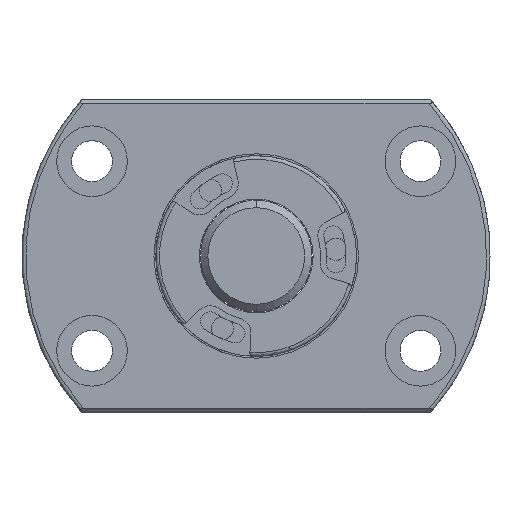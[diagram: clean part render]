
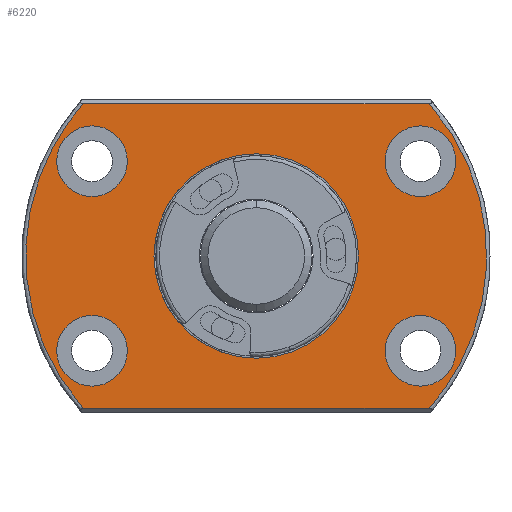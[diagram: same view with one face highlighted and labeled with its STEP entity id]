
A CAD part, left-side view. The second image highlights one B-rep face of the part: STEP entity #6220.
In plain terms, the highlighted planar face has unit normal (-1, 0, 0).
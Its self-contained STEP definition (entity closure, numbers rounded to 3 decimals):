
#52 = ORIENTED_EDGE ( 'NONE', *, *, #3601, .T. ) ;
#76 = CARTESIAN_POINT ( 'NONE',  ( 0., 0., -20.5 ) ) ;
#113 = CARTESIAN_POINT ( 'NONE',  ( 0., 22.084, -12.75 ) ) ;
#173 = AXIS2_PLACEMENT_3D ( 'NONE', #5272, #7792, #6441 ) ;
#193 = EDGE_CURVE ( 'NONE', #1354, #4407, #1713, .T. ) ;
#246 = ORIENTED_EDGE ( 'NONE', *, *, #4197, .F. ) ;
#256 = VERTEX_POINT ( 'NONE', #7330 ) ;
#363 = ORIENTED_EDGE ( 'NONE', *, *, #5457, .T. ) ;
#377 = VERTEX_POINT ( 'NONE', #1036 ) ;
#416 = DIRECTION ( 'NONE',  ( 0., 0., 1. ) ) ;
#517 = EDGE_LOOP ( 'NONE', ( #4349, #52 ) ) ;
#629 = CARTESIAN_POINT ( 'NONE',  ( 0., -22.084, -12.75 ) ) ;
#648 = DIRECTION ( 'NONE',  ( 0., 0., 1. ) ) ;
#741 = CARTESIAN_POINT ( 'NONE',  ( 0., -34.098, 8.199 ) ) ;
#760 = VERTEX_POINT ( 'NONE', #1612 ) ;
#767 = CARTESIAN_POINT ( 'NONE',  ( 0., -22.084, 17.5 ) ) ;
#867 = DIRECTION ( 'NONE',  ( 1., 0., 0. ) ) ;
#892 = CARTESIAN_POINT ( 'NONE',  ( 0., 23.254, 20.5 ) ) ;
#918 = FACE_BOUND ( 'NONE', #2124, .T. ) ;
#965 = ORIENTED_EDGE ( 'NONE', *, *, #2668, .F. ) ;
#976 = CARTESIAN_POINT ( 'NONE',  ( 0., 0., 0. ) ) ;
#1036 = CARTESIAN_POINT ( 'NONE',  ( 0., 22.084, 17.5 ) ) ;
#1053 = LINE ( 'NONE', #3655, #3575 ) ;
#1183 = CARTESIAN_POINT ( 'NONE',  ( 0., 23.254, 20.5 ) ) ;
#1354 = VERTEX_POINT ( 'NONE', #5718 ) ;
#1384 = AXIS2_PLACEMENT_3D ( 'NONE', #7695, #2570, #2597 ) ;
#1450 = CIRCLE ( 'NONE', #5500, 4.75 ) ;
#1545 = CIRCLE ( 'NONE', #2299, 13.75 ) ;
#1576 = LINE ( 'NONE', #76, #4685 ) ;
#1612 = CARTESIAN_POINT ( 'NONE',  ( 0., 0., 13.75 ) ) ;
#1659 = EDGE_CURVE ( 'NONE', #5902, #5411, #3844, .T. ) ;
#1713 =( BOUNDED_CURVE ( )  B_SPLINE_CURVE ( 3, ( #4859, #3491, #7298, #892 ),
 .UNSPECIFIED., .F., .T. ) 
 B_SPLINE_CURVE_WITH_KNOTS ( ( 4, 4 ),
 ( 0., 1. ),
 .UNSPECIFIED. ) 
 CURVE ( )  GEOMETRIC_REPRESENTATION_ITEM ( )  RATIONAL_B_SPLINE_CURVE ( ( 1., 0.833, 0.833, 1. ) ) 
 REPRESENTATION_ITEM ( '' )  );
#2086 = AXIS2_PLACEMENT_3D ( 'NONE', #2562, #5697, #3137 ) ;
#2124 = EDGE_LOOP ( 'NONE', ( #6494, #3625 ) ) ;
#2141 = CIRCLE ( 'NONE', #1384, 4.75 ) ;
#2177 = EDGE_CURVE ( 'NONE', #256, #760, #6950, .T. ) ;
#2299 = AXIS2_PLACEMENT_3D ( 'NONE', #976, #6710, #416 ) ;
#2510 = AXIS2_PLACEMENT_3D ( 'NONE', #5967, #4263, #5991 ) ;
#2562 = CARTESIAN_POINT ( 'NONE',  ( 0., -22.084, -12.75 ) ) ;
#2570 = DIRECTION ( 'NONE',  ( 1., 0., 0. ) ) ;
#2578 = VERTEX_POINT ( 'NONE', #3935 ) ;
#2597 = DIRECTION ( 'NONE',  ( 0., 0., 1. ) ) ;
#2598 = DIRECTION ( 'NONE',  ( 0., 1., 0. ) ) ;
#2668 = EDGE_CURVE ( 'NONE', #2578, #7729, #4678, .T. ) ;
#2677 = VERTEX_POINT ( 'NONE', #5995 ) ;
#2700 = CARTESIAN_POINT ( 'NONE',  ( 0., -23.254, 20.5 ) ) ;
#2704 = EDGE_LOOP ( 'NONE', ( #246, #4950, #6893, #965 ) ) ;
#2846 = FACE_BOUND ( 'NONE', #7482, .T. ) ;
#2885 = CIRCLE ( 'NONE', #3750, 4.75 ) ;
#2962 = VERTEX_POINT ( 'NONE', #6554 ) ;
#3054 = CIRCLE ( 'NONE', #173, 4.75 ) ;
#3068 = PLANE ( 'NONE',  #7003 ) ;
#3137 = DIRECTION ( 'NONE',  ( 0., 0., 1. ) ) ;
#3231 = EDGE_LOOP ( 'NONE', ( #3712, #7864 ) ) ;
#3305 = CARTESIAN_POINT ( 'NONE',  ( 0., 0., 0. ) ) ;
#3370 = CARTESIAN_POINT ( 'NONE',  ( 0., -23.254, -20.5 ) ) ;
#3432 = DIRECTION ( 'NONE',  ( 0., 0., 1. ) ) ;
#3491 = CARTESIAN_POINT ( 'NONE',  ( 0., 34.098, -8.199 ) ) ;
#3543 = FACE_BOUND ( 'NONE', #517, .T. ) ;
#3575 = VECTOR ( 'NONE', #8132, 1000. ) ;
#3601 = EDGE_CURVE ( 'NONE', #2677, #377, #4785, .T. ) ;
#3625 = ORIENTED_EDGE ( 'NONE', *, *, #5441, .T. ) ;
#3655 = CARTESIAN_POINT ( 'NONE',  ( 0., 0., 20.5 ) ) ;
#3660 = EDGE_CURVE ( 'NONE', #4810, #7393, #2885, .T. ) ;
#3712 = ORIENTED_EDGE ( 'NONE', *, *, #4259, .T. ) ;
#3750 = AXIS2_PLACEMENT_3D ( 'NONE', #113, #3950, #5208 ) ;
#3787 = DIRECTION ( 'NONE',  ( 1., 0., 0. ) ) ;
#3844 = CIRCLE ( 'NONE', #5297, 4.75 ) ;
#3883 = EDGE_CURVE ( 'NONE', #7729, #1354, #1576, .T. ) ;
#3935 = CARTESIAN_POINT ( 'NONE',  ( 0., -23.254, 20.5 ) ) ;
#3950 = DIRECTION ( 'NONE',  ( 1., 0., 0. ) ) ;
#3984 = CIRCLE ( 'NONE', #2086, 4.75 ) ;
#4058 = CIRCLE ( 'NONE', #2510, 4.75 ) ;
#4197 = EDGE_CURVE ( 'NONE', #4407, #2578, #1053, .T. ) ;
#4259 = EDGE_CURVE ( 'NONE', #2962, #7004, #3984, .T. ) ;
#4263 = DIRECTION ( 'NONE',  ( 1., 0., 0. ) ) ;
#4349 = ORIENTED_EDGE ( 'NONE', *, *, #6776, .T. ) ;
#4407 = VERTEX_POINT ( 'NONE', #1183 ) ;
#4597 = DIRECTION ( 'NONE',  ( 0., 0., 1. ) ) ;
#4629 = CARTESIAN_POINT ( 'NONE',  ( 0., -34.098, -8.199 ) ) ;
#4641 = FACE_BOUND ( 'NONE', #4772, .T. ) ;
#4678 =( BOUNDED_CURVE ( )  B_SPLINE_CURVE ( 3, ( #2700, #741, #4629, #3370 ),
 .UNSPECIFIED., .F., .F. ) 
 B_SPLINE_CURVE_WITH_KNOTS ( ( 4, 4 ),
 ( 0., 1. ),
 .UNSPECIFIED. ) 
 CURVE ( )  GEOMETRIC_REPRESENTATION_ITEM ( )  RATIONAL_B_SPLINE_CURVE ( ( 1., 0.833, 0.833, 1. ) ) 
 REPRESENTATION_ITEM ( '' )  );
#4685 = VECTOR ( 'NONE', #2598, 1000. ) ;
#4772 = EDGE_LOOP ( 'NONE', ( #363, #5583 ) ) ;
#4785 = CIRCLE ( 'NONE', #5569, 4.75 ) ;
#4810 = VERTEX_POINT ( 'NONE', #5651 ) ;
#4843 = FACE_BOUND ( 'NONE', #3231, .T. ) ;
#4859 = CARTESIAN_POINT ( 'NONE',  ( 0., 23.254, -20.5 ) ) ;
#4877 = CARTESIAN_POINT ( 'NONE',  ( 0., 22.084, -17.5 ) ) ;
#4932 = AXIS2_PLACEMENT_3D ( 'NONE', #3305, #6484, #4597 ) ;
#4950 = ORIENTED_EDGE ( 'NONE', *, *, #193, .F. ) ;
#4959 = CARTESIAN_POINT ( 'NONE',  ( 0., 0., 0. ) ) ;
#5054 = DIRECTION ( 'NONE',  ( 1., 0., 0. ) ) ;
#5208 = DIRECTION ( 'NONE',  ( 0., 0., 1. ) ) ;
#5272 = CARTESIAN_POINT ( 'NONE',  ( 0., 22.084, -12.75 ) ) ;
#5297 = AXIS2_PLACEMENT_3D ( 'NONE', #5367, #867, #3432 ) ;
#5367 = CARTESIAN_POINT ( 'NONE',  ( 0., -22.084, 12.75 ) ) ;
#5411 = VERTEX_POINT ( 'NONE', #767 ) ;
#5441 = EDGE_CURVE ( 'NONE', #7393, #4810, #3054, .T. ) ;
#5457 = EDGE_CURVE ( 'NONE', #5411, #5902, #4058, .T. ) ;
#5500 = AXIS2_PLACEMENT_3D ( 'NONE', #629, #5054, #7007 ) ;
#5569 = AXIS2_PLACEMENT_3D ( 'NONE', #7654, #3787, #648 ) ;
#5583 = ORIENTED_EDGE ( 'NONE', *, *, #1659, .T. ) ;
#5651 = CARTESIAN_POINT ( 'NONE',  ( 0., 22.084, -8. ) ) ;
#5697 = DIRECTION ( 'NONE',  ( 1., 0., 0. ) ) ;
#5716 = EDGE_CURVE ( 'NONE', #7004, #2962, #1450, .T. ) ;
#5718 = CARTESIAN_POINT ( 'NONE',  ( 0., 23.254, -20.5 ) ) ;
#5902 = VERTEX_POINT ( 'NONE', #6433 ) ;
#5967 = CARTESIAN_POINT ( 'NONE',  ( 0., -22.084, 12.75 ) ) ;
#5991 = DIRECTION ( 'NONE',  ( 0., 0., 1. ) ) ;
#5995 = CARTESIAN_POINT ( 'NONE',  ( 0., 22.084, 8. ) ) ;
#6220 = ADVANCED_FACE ( 'NONE', ( #6445, #918, #3543, #4641, #4843, #2846 ), #3068, .F. ) ;
#6433 = CARTESIAN_POINT ( 'NONE',  ( 0., -22.084, 8. ) ) ;
#6441 = DIRECTION ( 'NONE',  ( 0., 0., 1. ) ) ;
#6445 = FACE_OUTER_BOUND ( 'NONE', #2704, .T. ) ;
#6484 = DIRECTION ( 'NONE',  ( -1., 0., 0. ) ) ;
#6494 = ORIENTED_EDGE ( 'NONE', *, *, #3660, .T. ) ;
#6505 = CARTESIAN_POINT ( 'NONE',  ( 0., -23.254, -20.5 ) ) ;
#6554 = CARTESIAN_POINT ( 'NONE',  ( 0., -22.084, -8. ) ) ;
#6559 = EDGE_CURVE ( 'NONE', #760, #256, #1545, .T. ) ;
#6617 = ORIENTED_EDGE ( 'NONE', *, *, #6559, .F. ) ;
#6710 = DIRECTION ( 'NONE',  ( -1., 0., 0. ) ) ;
#6776 = EDGE_CURVE ( 'NONE', #377, #2677, #2141, .T. ) ;
#6893 = ORIENTED_EDGE ( 'NONE', *, *, #3883, .F. ) ;
#6950 = CIRCLE ( 'NONE', #4932, 13.75 ) ;
#7003 = AXIS2_PLACEMENT_3D ( 'NONE', #4959, #7538, #7510 ) ;
#7004 = VERTEX_POINT ( 'NONE', #8202 ) ;
#7007 = DIRECTION ( 'NONE',  ( 0., 0., 1. ) ) ;
#7298 = CARTESIAN_POINT ( 'NONE',  ( 0., 34.098, 8.199 ) ) ;
#7330 = CARTESIAN_POINT ( 'NONE',  ( 0., 0., -13.75 ) ) ;
#7393 = VERTEX_POINT ( 'NONE', #4877 ) ;
#7482 = EDGE_LOOP ( 'NONE', ( #6617, #7620 ) ) ;
#7510 = DIRECTION ( 'NONE',  ( 0., 0., -1. ) ) ;
#7538 = DIRECTION ( 'NONE',  ( 1., 0., 0. ) ) ;
#7620 = ORIENTED_EDGE ( 'NONE', *, *, #2177, .F. ) ;
#7654 = CARTESIAN_POINT ( 'NONE',  ( 0., 22.084, 12.75 ) ) ;
#7695 = CARTESIAN_POINT ( 'NONE',  ( 0., 22.084, 12.75 ) ) ;
#7729 = VERTEX_POINT ( 'NONE', #6505 ) ;
#7792 = DIRECTION ( 'NONE',  ( 1., 0., 0. ) ) ;
#7864 = ORIENTED_EDGE ( 'NONE', *, *, #5716, .T. ) ;
#8132 = DIRECTION ( 'NONE',  ( 0., -1., 0. ) ) ;
#8202 = CARTESIAN_POINT ( 'NONE',  ( 0., -22.084, -17.5 ) ) ;
